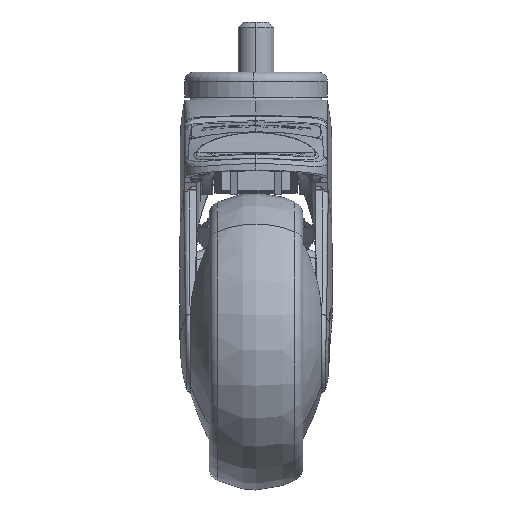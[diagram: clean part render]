
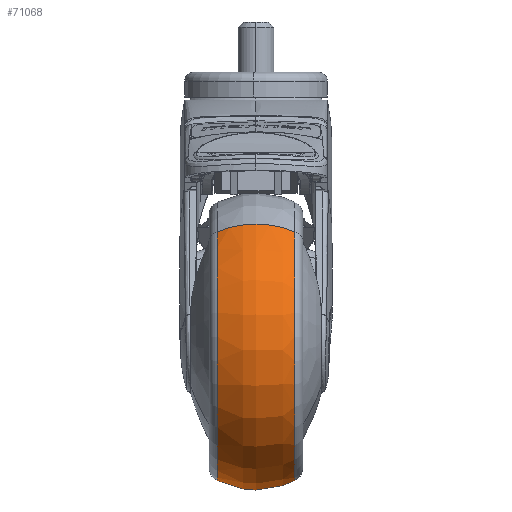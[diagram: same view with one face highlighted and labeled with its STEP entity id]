
A CAD part, left-side view. The second image highlights one B-rep face of the part: STEP entity #71068.
In plain terms, the highlighted toroidal (fillet/blend) face has major radius 22 mm and minor radius 28 mm.
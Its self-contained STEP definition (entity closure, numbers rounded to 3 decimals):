
#33005 = CARTESIAN_POINT ( 'NONE',  ( -47.674, -7.421, -8.497 ) ) ;
#33107 = AXIS2_PLACEMENT_3D ( 'NONE', #33161, #33160, #33159 ) ;
#33109 = CIRCLE ( 'NONE', #33107, 46.753 ) ;
#33159 = DIRECTION ( 'NONE',  ( -0.616, 0., 0.787 ) ) ;
#33160 = DIRECTION ( 'NONE',  ( 0., 1., 0. ) ) ;
#33161 = CARTESIAN_POINT ( 'NONE',  ( -18.853, -7.421, -45.31 ) ) ;
#33182 = CARTESIAN_POINT ( 'NONE',  ( 9.968, 18.754, -82.124 ) ) ;
#33204 = CIRCLE ( 'NONE', #33239, 28. ) ;
#33227 = CARTESIAN_POINT ( 'NONE',  ( -47.674, 18.754, -8.497 ) ) ;
#33234 = DIRECTION ( 'NONE',  ( -0.616, 0., 0.787 ) ) ;
#33235 = DIRECTION ( 'NONE',  ( -0.787, 0., -0.616 ) ) ;
#33236 = CARTESIAN_POINT ( 'NONE',  ( -32.415, 5.667, -27.988 ) ) ;
#33238 = CIRCLE ( 'NONE', #33286, 28. ) ;
#33239 = AXIS2_PLACEMENT_3D ( 'NONE', #33236, #33235, #33234 ) ;
#33283 = DIRECTION ( 'NONE',  ( 0.616, 0., -0.787 ) ) ;
#33284 = DIRECTION ( 'NONE',  ( 0.787, 0., 0.616 ) ) ;
#33285 = CARTESIAN_POINT ( 'NONE',  ( -5.291, 5.667, -62.633 ) ) ;
#33286 = AXIS2_PLACEMENT_3D ( 'NONE', #33285, #33284, #33283 ) ;
#33313 = CARTESIAN_POINT ( 'NONE',  ( 9.968, -7.421, -82.124 ) ) ;
#33345 = CARTESIAN_POINT ( 'NONE',  ( -18.853, 18.754, -45.31 ) ) ;
#33377 = TOROIDAL_SURFACE ( 'NONE', #33386, 22., 28. ) ;
#33386 = AXIS2_PLACEMENT_3D ( 'NONE', #33425, #33420, #33419 ) ;
#33396 = DIRECTION ( 'NONE',  ( -0.616, 0., 0.787 ) ) ;
#33397 = DIRECTION ( 'NONE',  ( 0., 1., 0. ) ) ;
#33398 = AXIS2_PLACEMENT_3D ( 'NONE', #33345, #33397, #33396 ) ;
#33399 = CIRCLE ( 'NONE', #33398, 46.753 ) ;
#33419 = DIRECTION ( 'NONE',  ( -0.616, 0., 0.787 ) ) ;
#33420 = DIRECTION ( 'NONE',  ( 0., 1., 0. ) ) ;
#33423 = FACE_OUTER_BOUND ( 'NONE', #71066, .T. ) ;
#33425 = CARTESIAN_POINT ( 'NONE',  ( -18.853, 5.667, -45.31 ) ) ;
#70750 = EDGE_CURVE ( 'NONE', #70909, #70892, #33109, .T. ) ;
#70815 = VERTEX_POINT ( 'NONE', #33182 ) ;
#70870 = EDGE_CURVE ( 'NONE', #70892, #70872, #33204, .T. ) ;
#70872 = VERTEX_POINT ( 'NONE', #33227 ) ;
#70875 = EDGE_CURVE ( 'NONE', #70909, #70815, #33238, .T. ) ;
#70892 = VERTEX_POINT ( 'NONE', #33005 ) ;
#70909 = VERTEX_POINT ( 'NONE', #33313 ) ;
#70976 = ORIENTED_EDGE ( 'NONE', *, *, #70875, .F. ) ;
#70988 = ORIENTED_EDGE ( 'NONE', *, *, #70750, .T. ) ;
#70993 = ORIENTED_EDGE ( 'NONE', *, *, #71010, .F. ) ;
#71010 = EDGE_CURVE ( 'NONE', #70815, #70872, #33399, .T. ) ;
#71066 = EDGE_LOOP ( 'NONE', ( #70976, #70988, #71072, #70993 ) ) ;
#71068 = ADVANCED_FACE ( 'NONE', ( #33423 ), #33377, .T. ) ;
#71072 = ORIENTED_EDGE ( 'NONE', *, *, #70870, .T. ) ;
